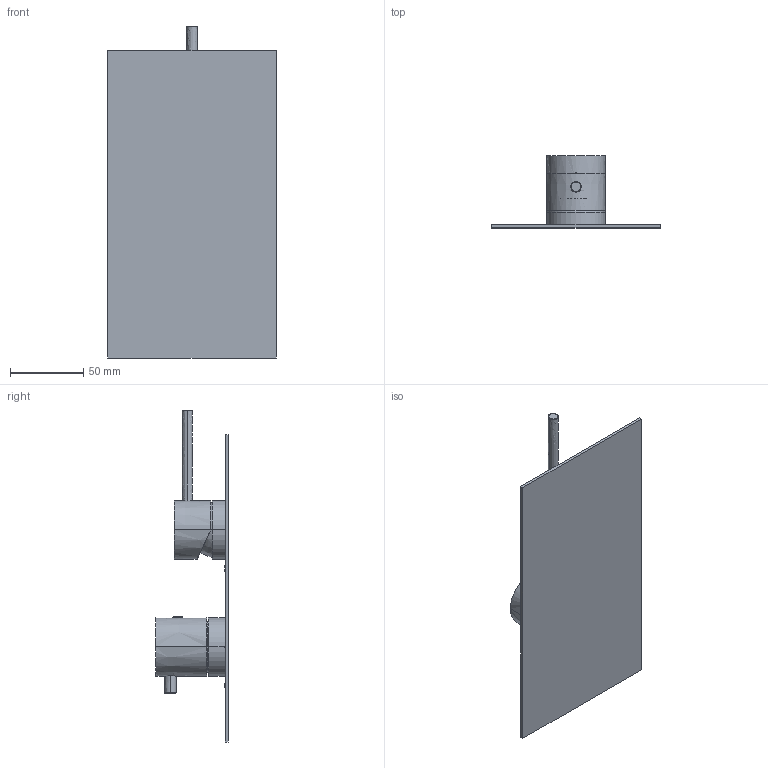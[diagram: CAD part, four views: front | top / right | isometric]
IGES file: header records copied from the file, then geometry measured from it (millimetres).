
Start section:  PTC IGES file: 69523v2.igs
Global section: file name: 69523v2.igs; native system: Creo Parametric by PTC Inc.; preprocessor: 2022014; author: carloff; organization: Unknown; date: 20251119.161613; units: millimetre
Bounding box: 115 x 49.6 x 227 mm (x, y, z)
Surface area: 68532.4 mm2 (no closed solid volume)
Topology: 0 solids, 0 shells, 99 faces, 446 edges, 444 vertices
Faces by surface type: revolution 56, bspline 43
